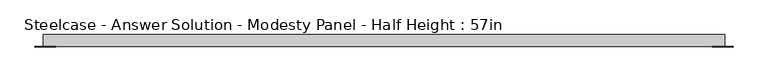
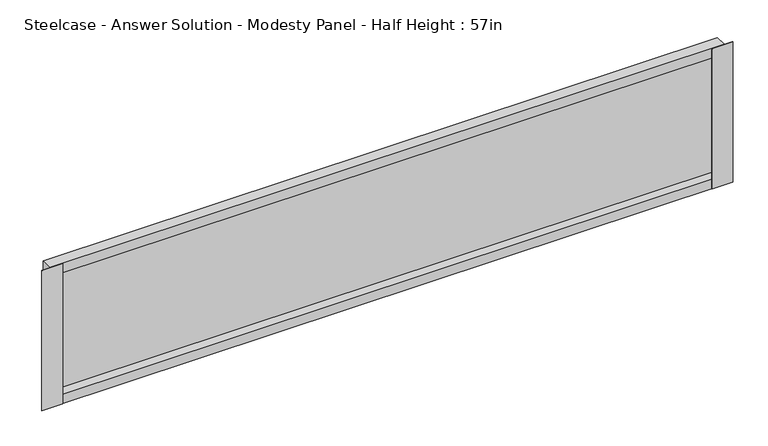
"""IFC4 building model written with IfcOpenShell, lengths in millimetres: furniture geometry, Steelcase - Answer Solution - Modesty Panel - Half Height : 57in."""

from ifc_helpers import new_model, si_unit, frame, origin, place, context, project, spatial, polyline, outline, extrude, faceted_brep, source, transform, mapped, element, save


def steelcase_answer_solution_modesty_panel_half_height_57in_09d9d545(model_context):
    return source(origin(), model_context, "Body", "SolidModel", [
        extrude(outline(polyline([(1991.3400478, -14.2668826), (1991.3400478, -15.0593624), (1946.9248254, -15.0593624), (1946.9248254, -14.2668826), (1991.3400478, -14.2668826)])), frame((0.0, 0.0, 17.653), z_axis=(0.0, 0.0, 1.0), x_axis=(1.0, 0.0, 0.0)), (0.0, 0.0, 1.0), 317.5),
        extrude(outline(polyline([(556.9673392, -14.2668826), (556.9673392, -15.0593624), (512.5520826, -15.0593624), (512.5520826, -14.2668826), (556.9673392, -14.2668826)])), frame((0.0, 0.0, 17.653), z_axis=(0.0, 0.0, 1.0), x_axis=(1.0, 0.0, 0.0)), (0.0, 0.0, 1.0), 317.5),
        faceted_brep([(530.0780827, 10.9045177, 17.653), (530.0780827, -14.2668826, 17.653), (530.0780827, -14.2668826, 335.153), (530.0780827, 10.9045177, 335.153), (1973.8140827, -14.2668826, 17.653), (1973.8140827, 10.9045177, 17.653), (1973.8140827, 10.9045177, 335.153), (1973.8140827, -14.2668826, 335.153), (1973.0216165, 4.7831174, 39.243), (530.8705628, 4.7831174, 39.243), (530.8705628, -14.2668826, 39.243), (1973.0216165, -14.2668826, 39.243), (530.8705628, -14.2668826, 313.563), (1973.0216165, -14.2668826, 313.563), (530.8705628, 4.7831174, 313.563), (1973.0216165, 4.7831174, 313.563)], [[[0, 1, 2, 3]], [[4, 5, 6, 7]], [[8, 9, 10, 11]], [[0, 3, 6, 5]], [[4, 1, 0, 5]], [[2, 1, 4, 7], [10, 12, 13, 11]], [[3, 2, 7, 6]], [[14, 15, 13, 12]], [[9, 8, 15, 14]], [[12, 10, 9, 14]], [[11, 13, 15, 8]]]),
    ])


if __name__ == "__main__":
    model = new_model("IFC4")
    model_context = context("Model", 3, world=origin())
    ifc_project = project(units=[si_unit("LENGTHUNIT", "METRE", prefix="MILLI")], contexts=[model_context])
    site = spatial("IfcSite", under=ifc_project)
    building = spatial("IfcBuilding", under=site)
    placement = place(None, origin())
    steelcase_answer_solution_modesty_panel_half_height_57in_shape = steelcase_answer_solution_modesty_panel_half_height_57in_09d9d545(model_context)
    element("IfcFurniture", 1, ObjectType="Steelcase - Answer Solution - Modesty Panel - Half Height : 57in", at=placement, inside=building, context=model_context, shape_type="MappedRepresentation", body=[
        mapped(steelcase_answer_solution_modesty_panel_half_height_57in_shape, transform((0.0, 0.0, 0.0), x_axis=(1.0, 0.0, 0.0), y_axis=(0.0, 1.0, 0.0), z_axis=(0.0, 0.0, 1.0))),
    ])
    save(model, "model.ifc")
